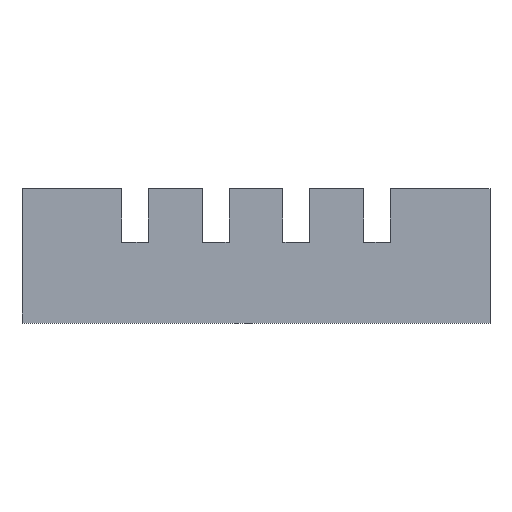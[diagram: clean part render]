
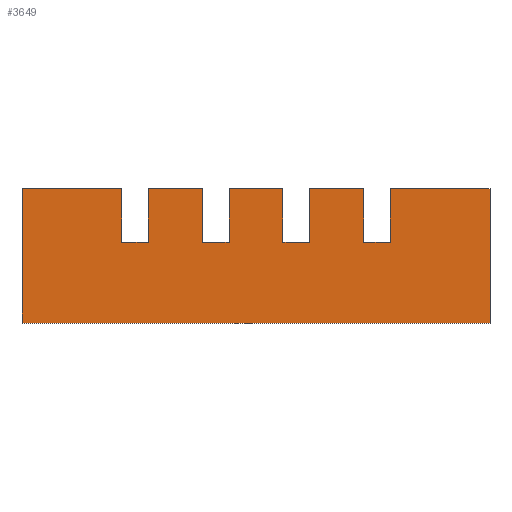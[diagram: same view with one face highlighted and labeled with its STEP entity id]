
A CAD part, top view. The second image highlights one B-rep face of the part: STEP entity #3649.
In plain terms, the highlighted planar face has unit normal (0, 0, 1).
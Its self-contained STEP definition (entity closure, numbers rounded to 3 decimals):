
#41 = VECTOR ( 'NONE', #3940, 1000. ) ;
#55 = CARTESIAN_POINT ( 'NONE',  ( 35., 15., 22. ) ) ;
#63 = DIRECTION ( 'NONE',  ( 0., -1., 0. ) ) ;
#77 = VECTOR ( 'NONE', #3268, 1000. ) ;
#78 = EDGE_CURVE ( 'NONE', #1192, #535, #1693, .T. ) ;
#90 = EDGE_LOOP ( 'NONE', ( #3906, #2931, #1861, #1704, #132, #3285, #797, #1518, #2880, #1924, #2586, #3603, #1044, #2627, #3066, #2132, #1277, #3015, #223, #2517 ) ) ;
#91 = LINE ( 'NONE', #3445, #949 ) ;
#102 = CARTESIAN_POINT ( 'NONE',  ( -15., 25., 22. ) ) ;
#132 = ORIENTED_EDGE ( 'NONE', *, *, #2518, .T. ) ;
#173 = LINE ( 'NONE', #793, #77 ) ;
#175 = CARTESIAN_POINT ( 'NONE',  ( -30., 25., 22. ) ) ;
#198 = VERTEX_POINT ( 'NONE', #549 ) ;
#202 = EDGE_CURVE ( 'NONE', #550, #2163, #3029, .T. ) ;
#223 = ORIENTED_EDGE ( 'NONE', *, *, #1276, .F. ) ;
#231 = EDGE_CURVE ( 'NONE', #2213, #550, #3344, .T. ) ;
#254 = EDGE_CURVE ( 'NONE', #3872, #1407, #710, .T. ) ;
#303 = EDGE_CURVE ( 'NONE', #1677, #485, #3675, .T. ) ;
#414 = DIRECTION ( 'NONE',  ( 0., 1., 0. ) ) ;
#437 = CARTESIAN_POINT ( 'NONE',  ( 0., 15., 22. ) ) ;
#485 = VERTEX_POINT ( 'NONE', #2632 ) ;
#506 = CARTESIAN_POINT ( 'NONE',  ( 0., 25., 22. ) ) ;
#535 = VERTEX_POINT ( 'NONE', #3395 ) ;
#549 = CARTESIAN_POINT ( 'NONE',  ( 5., 15., 22. ) ) ;
#550 = VERTEX_POINT ( 'NONE', #3730 ) ;
#612 = CARTESIAN_POINT ( 'NONE',  ( 50., 25., 22. ) ) ;
#706 = VECTOR ( 'NONE', #3771, 1000. ) ;
#710 = LINE ( 'NONE', #2467, #3313 ) ;
#723 = VERTEX_POINT ( 'NONE', #1168 ) ;
#784 = DIRECTION ( 'NONE',  ( 1., 0., 0. ) ) ;
#790 = VECTOR ( 'NONE', #3148, 1000. ) ;
#793 = CARTESIAN_POINT ( 'NONE',  ( 15., 25., 22. ) ) ;
#797 = ORIENTED_EDGE ( 'NONE', *, *, #231, .F. ) ;
#854 = VECTOR ( 'NONE', #3384, 1000. ) ;
#878 = CARTESIAN_POINT ( 'NONE',  ( 53.5, 25., 22. ) ) ;
#907 = VERTEX_POINT ( 'NONE', #55 ) ;
#908 = CARTESIAN_POINT ( 'NONE',  ( -10., 15., 22. ) ) ;
#924 = DIRECTION ( 'NONE',  ( 0., -1., 0. ) ) ;
#934 = LINE ( 'NONE', #1214, #854 ) ;
#949 = VECTOR ( 'NONE', #1245, 1000. ) ;
#1010 = DIRECTION ( 'NONE',  ( 0., -1., 0. ) ) ;
#1044 = ORIENTED_EDGE ( 'NONE', *, *, #1908, .F. ) ;
#1054 = DIRECTION ( 'NONE',  ( 0., 0., -1. ) ) ;
#1115 = DIRECTION ( 'NONE',  ( 1., 0., 0. ) ) ;
#1168 = CARTESIAN_POINT ( 'NONE',  ( 15., 25., 22. ) ) ;
#1184 = LINE ( 'NONE', #2172, #41 ) ;
#1192 = VERTEX_POINT ( 'NONE', #102 ) ;
#1214 = CARTESIAN_POINT ( 'NONE',  ( 0., 15., 22. ) ) ;
#1245 = DIRECTION ( 'NONE',  ( 0., -1., 0. ) ) ;
#1276 = EDGE_CURVE ( 'NONE', #3872, #2115, #1906, .T. ) ;
#1277 = ORIENTED_EDGE ( 'NONE', *, *, #3679, .F. ) ;
#1279 = VERTEX_POINT ( 'NONE', #1980 ) ;
#1283 = CARTESIAN_POINT ( 'NONE',  ( 5., 25., 22. ) ) ;
#1381 = VECTOR ( 'NONE', #784, 1000. ) ;
#1382 = VERTEX_POINT ( 'NONE', #2704 ) ;
#1384 = VECTOR ( 'NONE', #924, 1000. ) ;
#1393 = DIRECTION ( 'NONE',  ( -1., 0., 0. ) ) ;
#1407 = VERTEX_POINT ( 'NONE', #908 ) ;
#1451 = CARTESIAN_POINT ( 'NONE',  ( 0., 25., 22. ) ) ;
#1518 = ORIENTED_EDGE ( 'NONE', *, *, #1982, .T. ) ;
#1546 = EDGE_CURVE ( 'NONE', #1279, #1407, #1599, .T. ) ;
#1568 = LINE ( 'NONE', #3715, #2124 ) ;
#1585 = VERTEX_POINT ( 'NONE', #1283 ) ;
#1586 = LINE ( 'NONE', #1867, #790 ) ;
#1599 = LINE ( 'NONE', #3379, #2079 ) ;
#1602 = LINE ( 'NONE', #2823, #3260 ) ;
#1619 = VECTOR ( 'NONE', #1115, 1000. ) ;
#1633 = DIRECTION ( 'NONE',  ( 1., 0., 0. ) ) ;
#1643 = CARTESIAN_POINT ( 'NONE',  ( 30., 25., 22. ) ) ;
#1654 = CARTESIAN_POINT ( 'NONE',  ( 0., 25., 22. ) ) ;
#1656 = VECTOR ( 'NONE', #63, 1000. ) ;
#1677 = VERTEX_POINT ( 'NONE', #1643 ) ;
#1689 = CARTESIAN_POINT ( 'NONE',  ( 0., 15., 22. ) ) ;
#1693 = LINE ( 'NONE', #175, #1780 ) ;
#1698 = CARTESIAN_POINT ( 'NONE',  ( -33.5, 0., 22. ) ) ;
#1704 = ORIENTED_EDGE ( 'NONE', *, *, #2455, .F. ) ;
#1733 = CARTESIAN_POINT ( 'NONE',  ( -10., 25., 22. ) ) ;
#1771 = VECTOR ( 'NONE', #2269, 1000. ) ;
#1780 = VECTOR ( 'NONE', #1393, 1000. ) ;
#1826 = DIRECTION ( 'NONE',  ( 1., 0., 0. ) ) ;
#1861 = ORIENTED_EDGE ( 'NONE', *, *, #78, .T. ) ;
#1867 = CARTESIAN_POINT ( 'NONE',  ( 50., 0., 22. ) ) ;
#1900 = DIRECTION ( 'NONE',  ( 0., -1., 0. ) ) ;
#1903 = CARTESIAN_POINT ( 'NONE',  ( 30., 25., 22. ) ) ;
#1906 = LINE ( 'NONE', #506, #1381 ) ;
#1908 = EDGE_CURVE ( 'NONE', #1382, #2542, #1184, .T. ) ;
#1924 = ORIENTED_EDGE ( 'NONE', *, *, #303, .F. ) ;
#1945 = LINE ( 'NONE', #1654, #3399 ) ;
#1980 = CARTESIAN_POINT ( 'NONE',  ( -15., 15., 22. ) ) ;
#1982 = EDGE_CURVE ( 'NONE', #2213, #907, #2154, .T. ) ;
#2079 = VECTOR ( 'NONE', #2217, 1000. ) ;
#2084 = DIRECTION ( 'NONE',  ( 0., -1., 0. ) ) ;
#2115 = VERTEX_POINT ( 'NONE', #2855 ) ;
#2124 = VECTOR ( 'NONE', #414, 1000. ) ;
#2132 = ORIENTED_EDGE ( 'NONE', *, *, #2883, .T. ) ;
#2154 = LINE ( 'NONE', #3920, #1384 ) ;
#2162 = VECTOR ( 'NONE', #2084, 1000. ) ;
#2163 = VERTEX_POINT ( 'NONE', #2658 ) ;
#2164 = LINE ( 'NONE', #3435, #2234 ) ;
#2172 = CARTESIAN_POINT ( 'NONE',  ( 0., 15., 22. ) ) ;
#2213 = VERTEX_POINT ( 'NONE', #3291 ) ;
#2217 = DIRECTION ( 'NONE',  ( 1., 0., 0. ) ) ;
#2234 = VECTOR ( 'NONE', #1900, 1000. ) ;
#2269 = DIRECTION ( 'NONE',  ( 1., 0., 0. ) ) ;
#2283 = LINE ( 'NONE', #3530, #706 ) ;
#2455 = EDGE_CURVE ( 'NONE', #3406, #535, #1568, .T. ) ;
#2467 = CARTESIAN_POINT ( 'NONE',  ( -10., 25., 22. ) ) ;
#2468 = EDGE_CURVE ( 'NONE', #2732, #1677, #1945, .T. ) ;
#2470 = AXIS2_PLACEMENT_3D ( 'NONE', #2830, #1054, #2850 ) ;
#2517 = ORIENTED_EDGE ( 'NONE', *, *, #254, .T. ) ;
#2518 = EDGE_CURVE ( 'NONE', #3406, #2163, #1586, .T. ) ;
#2542 = VERTEX_POINT ( 'NONE', #2828 ) ;
#2586 = ORIENTED_EDGE ( 'NONE', *, *, #2468, .F. ) ;
#2595 = EDGE_CURVE ( 'NONE', #1585, #723, #3816, .T. ) ;
#2627 = ORIENTED_EDGE ( 'NONE', *, *, #3831, .F. ) ;
#2632 = CARTESIAN_POINT ( 'NONE',  ( 30., 15., 22. ) ) ;
#2637 = VERTEX_POINT ( 'NONE', #1689 ) ;
#2658 = CARTESIAN_POINT ( 'NONE',  ( 53.5, 0., 22. ) ) ;
#2704 = CARTESIAN_POINT ( 'NONE',  ( 15., 15., 22. ) ) ;
#2732 = VERTEX_POINT ( 'NONE', #3286 ) ;
#2823 = CARTESIAN_POINT ( 'NONE',  ( 5., 25., 22. ) ) ;
#2828 = CARTESIAN_POINT ( 'NONE',  ( 20., 15., 22. ) ) ;
#2830 = CARTESIAN_POINT ( 'NONE',  ( 50., 25., 22. ) ) ;
#2850 = DIRECTION ( 'NONE',  ( -1., 0., 0. ) ) ;
#2855 = CARTESIAN_POINT ( 'NONE',  ( 0., 25., 22. ) ) ;
#2866 = EDGE_CURVE ( 'NONE', #2115, #2637, #2164, .T. ) ;
#2871 = PLANE ( 'NONE',  #2470 ) ;
#2880 = ORIENTED_EDGE ( 'NONE', *, *, #3905, .F. ) ;
#2883 = EDGE_CURVE ( 'NONE', #1585, #198, #1602, .T. ) ;
#2931 = ORIENTED_EDGE ( 'NONE', *, *, #3238, .F. ) ;
#3005 = EDGE_CURVE ( 'NONE', #2732, #2542, #2283, .T. ) ;
#3015 = ORIENTED_EDGE ( 'NONE', *, *, #2866, .F. ) ;
#3029 = LINE ( 'NONE', #878, #2162 ) ;
#3066 = ORIENTED_EDGE ( 'NONE', *, *, #2595, .F. ) ;
#3106 = DIRECTION ( 'NONE',  ( 0., -1., 0. ) ) ;
#3148 = DIRECTION ( 'NONE',  ( 1., 0., 0. ) ) ;
#3169 = FACE_OUTER_BOUND ( 'NONE', #90, .T. ) ;
#3238 = EDGE_CURVE ( 'NONE', #1192, #1279, #91, .T. ) ;
#3260 = VECTOR ( 'NONE', #1010, 1000. ) ;
#3268 = DIRECTION ( 'NONE',  ( 0., -1., 0. ) ) ;
#3285 = ORIENTED_EDGE ( 'NONE', *, *, #202, .F. ) ;
#3286 = CARTESIAN_POINT ( 'NONE',  ( 20., 25., 22. ) ) ;
#3291 = CARTESIAN_POINT ( 'NONE',  ( 35., 25., 22. ) ) ;
#3313 = VECTOR ( 'NONE', #3106, 1000. ) ;
#3344 = LINE ( 'NONE', #612, #3555 ) ;
#3379 = CARTESIAN_POINT ( 'NONE',  ( 0., 15., 22. ) ) ;
#3384 = DIRECTION ( 'NONE',  ( 1., 0., 0. ) ) ;
#3395 = CARTESIAN_POINT ( 'NONE',  ( -33.5, 25., 22. ) ) ;
#3399 = VECTOR ( 'NONE', #1633, 1000. ) ;
#3405 = LINE ( 'NONE', #437, #1771 ) ;
#3406 = VERTEX_POINT ( 'NONE', #1698 ) ;
#3435 = CARTESIAN_POINT ( 'NONE',  ( 0., 25., 22. ) ) ;
#3445 = CARTESIAN_POINT ( 'NONE',  ( -15., 0., 22. ) ) ;
#3530 = CARTESIAN_POINT ( 'NONE',  ( 20., 25., 22. ) ) ;
#3555 = VECTOR ( 'NONE', #1826, 1000. ) ;
#3603 = ORIENTED_EDGE ( 'NONE', *, *, #3005, .T. ) ;
#3649 = ADVANCED_FACE ( 'NONE', ( #3169 ), #2871, .F. ) ;
#3675 = LINE ( 'NONE', #1903, #1656 ) ;
#3679 = EDGE_CURVE ( 'NONE', #2637, #198, #3405, .T. ) ;
#3715 = CARTESIAN_POINT ( 'NONE',  ( -33.5, 0., 22. ) ) ;
#3730 = CARTESIAN_POINT ( 'NONE',  ( 53.5, 25., 22. ) ) ;
#3771 = DIRECTION ( 'NONE',  ( 0., -1., 0. ) ) ;
#3816 = LINE ( 'NONE', #1451, #1619 ) ;
#3831 = EDGE_CURVE ( 'NONE', #723, #1382, #173, .T. ) ;
#3872 = VERTEX_POINT ( 'NONE', #1733 ) ;
#3905 = EDGE_CURVE ( 'NONE', #485, #907, #934, .T. ) ;
#3906 = ORIENTED_EDGE ( 'NONE', *, *, #1546, .F. ) ;
#3920 = CARTESIAN_POINT ( 'NONE',  ( 35., 0., 22. ) ) ;
#3940 = DIRECTION ( 'NONE',  ( 1., 0., 0. ) ) ;
